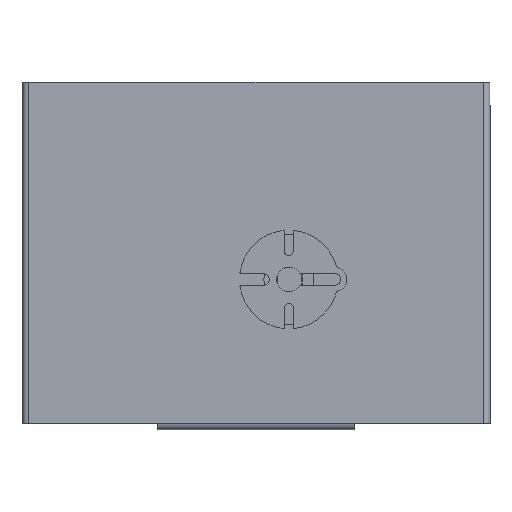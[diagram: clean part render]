
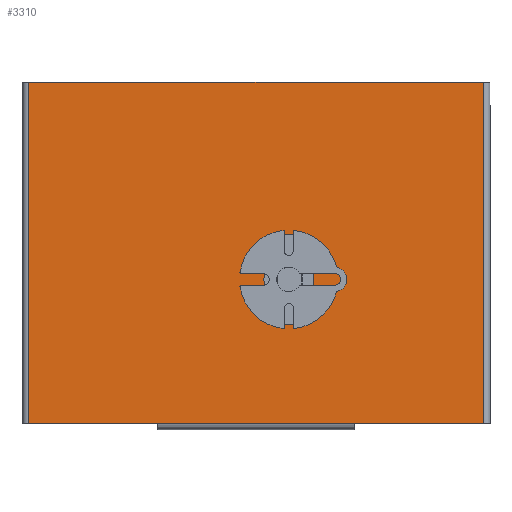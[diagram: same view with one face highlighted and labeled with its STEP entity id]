
A CAD part, top view. The second image highlights one B-rep face of the part: STEP entity #3310.
In plain terms, the highlighted planar face has unit normal (0, 0, 1).
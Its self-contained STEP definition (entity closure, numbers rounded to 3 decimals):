
#32 = ORIENTED_EDGE ( 'NONE', *, *, #4366, .T. ) ;
#114 = LINE ( 'NONE', #5252, #1259 ) ;
#194 = VERTEX_POINT ( 'NONE', #3883 ) ;
#370 = CARTESIAN_POINT ( 'NONE',  ( 3.4, 358., 214.8 ) ) ;
#486 = DIRECTION ( 'NONE',  ( 0., -1., 0. ) ) ;
#506 = CARTESIAN_POINT ( 'NONE',  ( 3.4, 47., 214.8 ) ) ;
#543 = VERTEX_POINT ( 'NONE', #3908 ) ;
#666 = EDGE_CURVE ( 'NONE', #194, #3876, #1997, .T. ) ;
#753 = CARTESIAN_POINT ( 'NONE',  ( 418.1, 358., 214.8 ) ) ;
#811 = EDGE_CURVE ( 'NONE', #4546, #4546, #3688, .T. ) ;
#902 = AXIS2_PLACEMENT_3D ( 'NONE', #2516, #5011, #2527 ) ;
#1120 = CARTESIAN_POINT ( 'NONE',  ( 424.1, 358., 214.8 ) ) ;
#1195 = DIRECTION ( 'NONE',  ( 1., 0., 0. ) ) ;
#1225 = VECTOR ( 'NONE', #486, 1000. ) ;
#1259 = VECTOR ( 'NONE', #2197, 1000. ) ;
#1279 = CARTESIAN_POINT ( 'NONE',  ( 0., 47., 214.8 ) ) ;
#1314 = ORIENTED_EDGE ( 'NONE', *, *, #666, .T. ) ;
#1369 = VERTEX_POINT ( 'NONE', #753 ) ;
#1639 = PLANE ( 'NONE',  #2435 ) ;
#1762 = DIRECTION ( 'NONE',  ( 0., 0., 1. ) ) ;
#1961 = VECTOR ( 'NONE', #2952, 1000. ) ;
#1997 = LINE ( 'NONE', #2039, #3461 ) ;
#2039 = CARTESIAN_POINT ( 'NONE',  ( 424.1, 47., 214.8 ) ) ;
#2134 = CARTESIAN_POINT ( 'NONE',  ( 418.1, 47., 214.8 ) ) ;
#2197 = DIRECTION ( 'NONE',  ( 0., 1., 0. ) ) ;
#2417 = VECTOR ( 'NONE', #4219, 1000. ) ;
#2435 = AXIS2_PLACEMENT_3D ( 'NONE', #5110, #1762, #3947 ) ;
#2460 = ORIENTED_EDGE ( 'NONE', *, *, #811, .F. ) ;
#2516 = CARTESIAN_POINT ( 'NONE',  ( 240.7, 178., 214.8 ) ) ;
#2527 = DIRECTION ( 'NONE',  ( 1., 0., 0. ) ) ;
#2886 = VERTEX_POINT ( 'NONE', #3573 ) ;
#2952 = DIRECTION ( 'NONE',  ( 1., 0., 0. ) ) ;
#2990 = EDGE_CURVE ( 'NONE', #543, #194, #4249, .T. ) ;
#2992 = LINE ( 'NONE', #506, #1225 ) ;
#3127 = VERTEX_POINT ( 'NONE', #370 ) ;
#3153 = DIRECTION ( 'NONE',  ( -1., 0., 0. ) ) ;
#3249 = ORIENTED_EDGE ( 'NONE', *, *, #3624, .T. ) ;
#3310 = ADVANCED_FACE ( 'NONE', ( #3492, #5061 ), #1639, .T. ) ;
#3369 = EDGE_LOOP ( 'NONE', ( #2460 ) ) ;
#3381 = ORIENTED_EDGE ( 'NONE', *, *, #2990, .T. ) ;
#3407 = ORIENTED_EDGE ( 'NONE', *, *, #5257, .T. ) ;
#3461 = VECTOR ( 'NONE', #1195, 1000. ) ;
#3492 = FACE_BOUND ( 'NONE', #3369, .T. ) ;
#3573 = CARTESIAN_POINT ( 'NONE',  ( 3.4, 47., 214.8 ) ) ;
#3624 = EDGE_CURVE ( 'NONE', #1369, #3127, #3938, .T. ) ;
#3688 = CIRCLE ( 'NONE', #902, 22.8 ) ;
#3876 = VERTEX_POINT ( 'NONE', #2134 ) ;
#3883 = CARTESIAN_POINT ( 'NONE',  ( 300.8, 47., 214.8 ) ) ;
#3908 = CARTESIAN_POINT ( 'NONE',  ( 120.8, 47., 214.8 ) ) ;
#3916 = ORIENTED_EDGE ( 'NONE', *, *, #5413, .T. ) ;
#3938 = LINE ( 'NONE', #1120, #5028 ) ;
#3947 = DIRECTION ( 'NONE',  ( 1., 0., 0. ) ) ;
#4219 = DIRECTION ( 'NONE',  ( 1., 0., 0. ) ) ;
#4249 = LINE ( 'NONE', #1279, #1961 ) ;
#4255 = CARTESIAN_POINT ( 'NONE',  ( 424.1, 47., 214.8 ) ) ;
#4363 = LINE ( 'NONE', #4255, #2417 ) ;
#4366 = EDGE_CURVE ( 'NONE', #3876, #1369, #114, .T. ) ;
#4391 = CARTESIAN_POINT ( 'NONE',  ( 263.5, 178., 214.8 ) ) ;
#4475 = EDGE_LOOP ( 'NONE', ( #1314, #32, #3249, #3916, #3407, #3381 ) ) ;
#4546 = VERTEX_POINT ( 'NONE', #4391 ) ;
#5011 = DIRECTION ( 'NONE',  ( 0., 0., 1. ) ) ;
#5028 = VECTOR ( 'NONE', #3153, 1000. ) ;
#5061 = FACE_OUTER_BOUND ( 'NONE', #4475, .T. ) ;
#5110 = CARTESIAN_POINT ( 'NONE',  ( 0., 0., 214.8 ) ) ;
#5252 = CARTESIAN_POINT ( 'NONE',  ( 418.1, 358., 214.8 ) ) ;
#5257 = EDGE_CURVE ( 'NONE', #2886, #543, #4363, .T. ) ;
#5413 = EDGE_CURVE ( 'NONE', #3127, #2886, #2992, .T. ) ;
